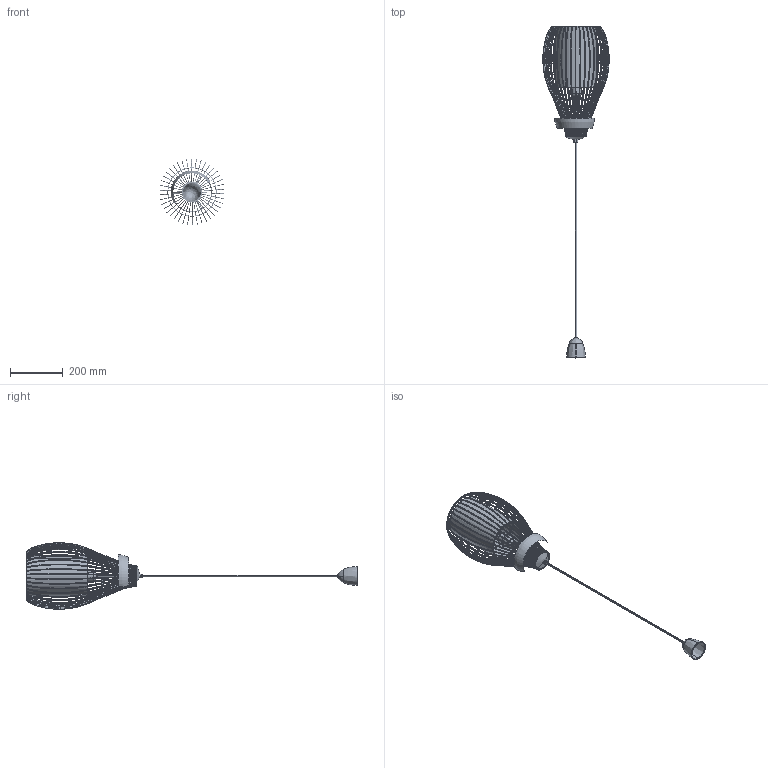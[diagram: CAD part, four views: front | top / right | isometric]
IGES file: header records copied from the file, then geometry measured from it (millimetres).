
Start section: SolidWorks IGES file using analytic representation for surfaces
Global section: file name: Z:\Modele 3D_WWW\_KOLEKCJE_WWW\CAMILLA-4611-4610\CAMILLA-4611-4610.IGS; native system: SolidWorks 2020; preprocessor: SolidWorks 2020; author: gabriela.tworek; date: 210412.125436; units: millimetre
Bounding box: 252.2 x 1261.51 x 252.63 mm (x, y, z)
Surface area: 425298.1 mm2 (no closed solid volume)
Topology: 0 solids, 0 shells, 371 faces, 8837 edges, 8816 vertices
Faces by surface type: bspline 284, revolution 87
